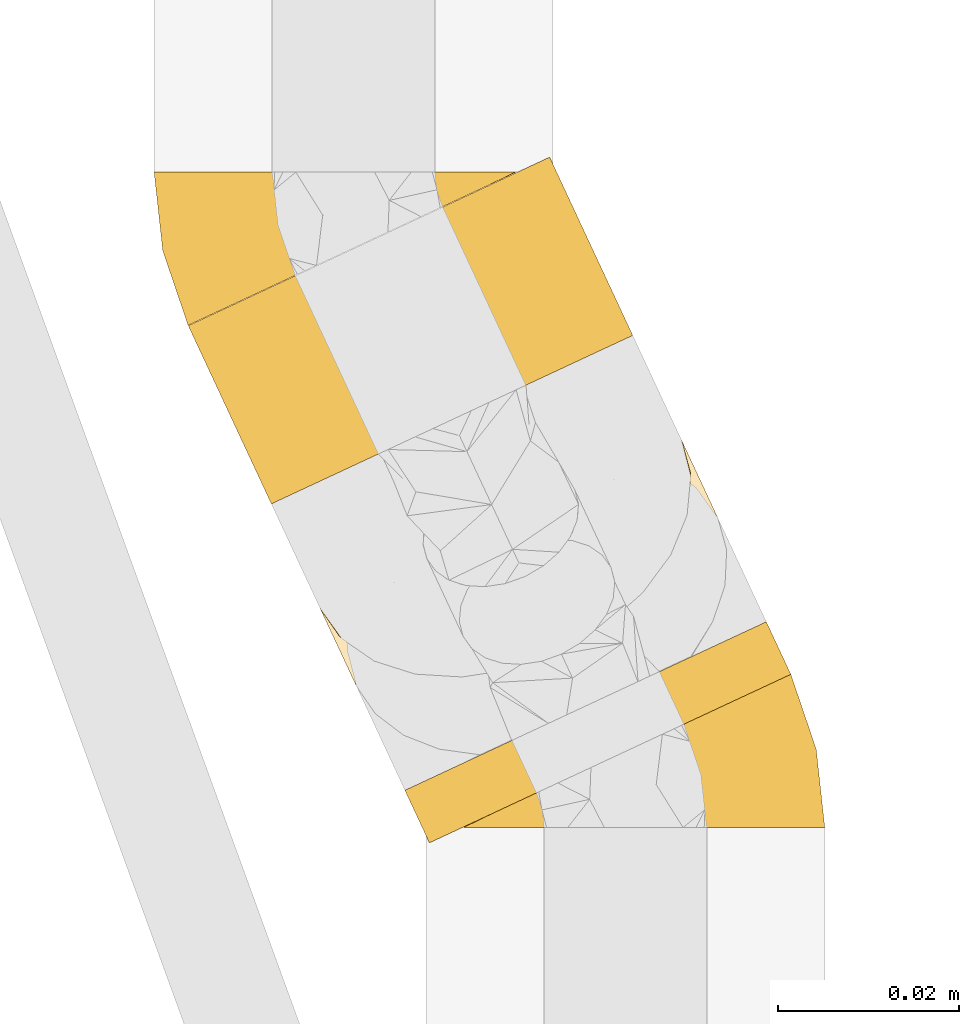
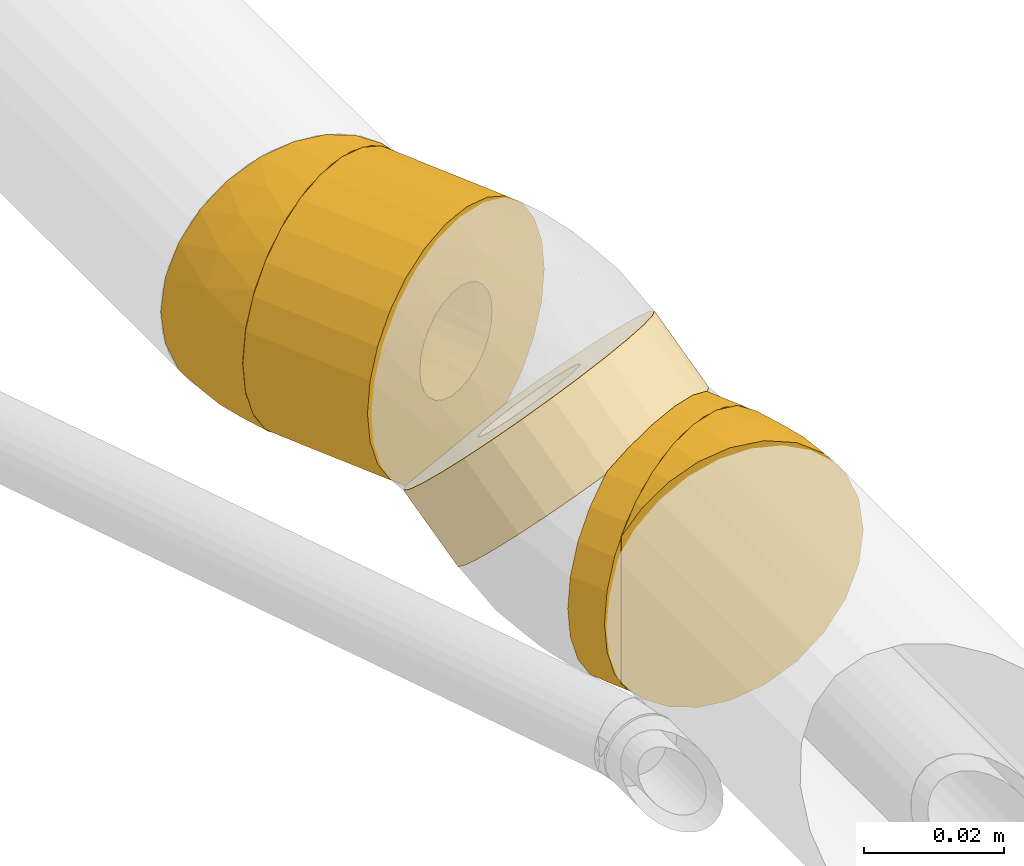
# One storey, part 10 of 156: 5 coverings.
"""IFC2X3 building model written with IfcOpenShell, lengths in millimetres."""

from ifc_helpers import new_model, entity, si_unit, converted_unit, derived_unit, direction, frame, origin_with_axes, origin_2d_with_axis, place, context, subcontext, project, spatial, hollow_circle, extrude, open_shell, surface_model, source, transform, mapped, element, save


model = new_model("IFC2X3")

# Units and contexts
model_context = context("Model", 3, precision=0.01, world=frame((0.0, 4.29681676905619e-09, 0.0)), true_north=direction((4.01073788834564e-13, 1.0)))
plan_context = context("Plan", 3, precision=0.01, world=frame((0.0, 4.29681676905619e-09, 0.0)), true_north=direction((4.01073788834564e-13, 1.0)))
body_context = subcontext(model_context, "Body", "Model", "MODEL_VIEW")
ifc_project = project(units=[converted_unit("PLANEANGLEUNIT", "DEGREE", entity("IfcPositiveLengthMeasure", 0.0174532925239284), si_unit("PLANEANGLEUNIT", "RADIAN"), dimensions=[0, 0, 0, 0, 0, 0, 0]), si_unit("AREAUNIT", "SQUARE_METRE"), si_unit("LENGTHUNIT", "METRE", prefix="MILLI"), si_unit("MASSUNIT", "GRAM", prefix="KILO"), si_unit("POWERUNIT", "WATT"), si_unit("PRESSUREUNIT", "PASCAL", prefix="KILO"), si_unit("FORCEUNIT", "NEWTON", prefix="KILO"), si_unit("ELECTRICVOLTAGEUNIT", "VOLT"), si_unit("ELECTRICCURRENTUNIT", "AMPERE"), si_unit("THERMODYNAMICTEMPERATUREUNIT", "DEGREE_CELSIUS"), si_unit("TIMEUNIT", "SECOND"), si_unit("VOLUMEUNIT", "CUBIC_METRE"), derived_unit("LINEARVELOCITYUNIT", [(si_unit("LENGTHUNIT", "METRE"), 1), (si_unit("TIMEUNIT", "SECOND"), -1)]), derived_unit("VOLUMETRICFLOWRATEUNIT", [(si_unit("VOLUMEUNIT", "CUBIC_METRE"), 1), (si_unit("TIMEUNIT", "SECOND"), -1)]), derived_unit("THERMALTRANSMITTANCEUNIT", [(si_unit("POWERUNIT", "WATT"), 1), (si_unit("THERMODYNAMICTEMPERATUREUNIT", "KELVIN"), -1), (si_unit("AREAUNIT", "SQUARE_METRE"), -1)]), derived_unit("SOUNDPRESSUREUNIT", [(si_unit("PRESSUREUNIT", "PASCAL"), 1)])], contexts=[model_context, plan_context])

# Site, building, storey
site_placement = place(None, frame((0.0, -4.29681676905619e-09, 0.0), z_axis=(0.0, 0.0, 1.0), x_axis=(1.0, 0.0, 0.0)))
site = spatial("IfcSite", under=ifc_project, at=site_placement, CompositionType="ELEMENT")
building_placement = place(site_placement, frame((0.0, 4.29681676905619e-09, 0.0), z_axis=(0.0, 0.0, 1.0), x_axis=(1.0, 0.0, 0.0)))
building = spatial("IfcBuilding", under=site, at=building_placement, Name="mc-building", CompositionType="ELEMENT")
storey_placement = place(building_placement, frame((0.0, 0.0, 205200.0), z_axis=(0.0, 0.0, 1.0), x_axis=(1.0, 0.0, 0.0)))
storey = spatial("IfcBuildingStorey", under=building, at=storey_placement, Name="Nivå D + 1,2 m", CompositionType="ELEMENT", Elevation=205200.0)

# Coverings
shared_shape_1 = source(origin_with_axes(), body_context, "Body", "SweptSolid", [
    extrude(hollow_circle(Radius=22.0, WallThickness=13.0, at=origin_2d_with_axis()), frame((0.0, 0.0, 0.0), z_axis=(1.0, 0.0, 0.0), x_axis=(0.0, 1.0, 0.0)), (0.0, 0.0, 1.0), 21.7),
])
covering_1_placement = place(storey_placement, frame((323604.74754, 466527.8438, 4210.50902999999), z_axis=(0.0, 0.0, 1.0), x_axis=(-0.422617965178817, 0.906307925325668, 0.0)))
element("IfcCovering", 1, at=covering_1_placement, inside=storey, Name="BI15T - Cellegummi KV 15mm", PredefinedType="INSULATION", context=body_context, shape_type="MappedRepresentation", body=[
    mapped(shared_shape_1, transform((0.0, 0.0, 0.0), scale=1.0)),
])
shared_shape_2 = source(origin_with_axes(), body_context, "Body", "SweptSolid", [
    extrude(hollow_circle(Radius=22.0, WallThickness=13.0, at=origin_2d_with_axis()), frame((0.0, 0.0, 0.0), z_axis=(1.0, 0.0, 0.0), x_axis=(0.0, 1.0, 0.0)), (0.0, 0.0, 1.0), 6.4),
])
covering_2_placement = place(storey_placement, frame((323622.18721, 466490.44431, 4190.50902999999), z_axis=(0.0, 0.0, 1.0), x_axis=(-0.422617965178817, 0.906307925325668, 0.0)))
element("IfcCovering", 2, at=covering_2_placement, inside=storey, Name="BI15T - Cellegummi KV 15mm", PredefinedType="INSULATION", context=body_context, shape_type="MappedRepresentation", body=[
    mapped(shared_shape_2, transform((0.0, 0.0, 0.0), scale=1.0)),
])
shared_shape_3 = source(origin_with_axes(), body_context, "Body", "SweptSolid", [
    extrude(hollow_circle(Radius=22.0, WallThickness=13.0, at=origin_2d_with_axis()), frame((0.0, 0.0, 0.0), z_axis=(1.0, 0.0, 0.0), x_axis=(0.0, 1.0, 0.0)), (0.0, 0.0, 1.0), 13.4),
])
covering_3_placement = place(storey_placement, frame((323614.1228, 466507.73848, 4195.78111000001), z_axis=(0.298836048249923, -0.640856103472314, 0.70710711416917), x_axis=(-0.298836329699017, 0.640856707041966, 0.707106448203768)))
element("IfcCovering", 3, at=covering_3_placement, inside=storey, Name="BI15T - Cellegummi KV 15mm", PredefinedType="INSULATION", context=body_context, shape_type="MappedRepresentation", body=[
    mapped(shared_shape_3, transform((0.0, 0.0, 0.0), scale=1.0)),
])
shared_shape_4 = source(origin_with_axes(), body_context, "Body", "SurfaceModel", [
    surface_model("IfcShellBasedSurfaceModel", [(-3.9905, 17.87261, -12.82848), (-3.9905, 14.36004, -16.66701), (-3.9905, 10.04424, -19.57328), (-3.9905, 5.16662, -21.38472), (-3.9905, 0.0, -22.0), (-3.9905, 14.36004, 16.66701), (-3.9905, 17.87261, 12.82848), (-3.9905, 5.16662, 21.38472), (-3.9905, 10.04424, 19.57328), (-3.9905, 0.0, 22.0), (-3.9905, -5.69402, 21.25037), (-3.9905, -21.25037, -5.69402), (-3.9905, -5.69402, -21.25037), (-3.9905, -11.0, -19.05256), (-3.9905, -15.55635, -15.55635), (-3.9905, -19.05256, -11.0), (-3.9905, -21.25037, 5.69402), (-3.9905, -11.0, 19.05256), (-3.9905, -15.55635, 15.55635), (-3.9905, -19.05256, 11.0), (-3.9905, -22.0, 0.0), (-0.62825, 10.78963, -19.57328), (-2.45219, 14.70108, -16.66701), (-3.93667, 17.88455, -12.82848), (-2.45219, 14.70108, 16.66701), (1.43312, 6.36901, -21.38472), (12.59742, -17.57291, 5.69402), (-3.93667, 17.88455, 12.82848), (-0.62825, 10.78963, 19.57328), (1.43312, 6.36901, 21.38472), (6.02302, -3.47407, 21.25037), (3.61662, 1.68646, 22.0), (3.61662, 1.68646, -22.0), (12.59742, -17.57291, -5.69402), (8.26543, -8.28293, -19.05256), (6.02302, -3.47407, -21.25037), (11.66858, -15.58102, -11.0), (10.19102, -12.41238, -15.55635), (10.19102, -12.41238, 15.55635), (8.26543, -8.28293, 19.05256), (11.66858, -15.58102, 11.0), (12.91423, -18.25231, 0.0), (-0.09459, 0.42667, -22.0), (0.16749, -3.90077, -21.57728), (2.80413, -12.64862, -17.45377), (3.6831, -16.61338, -13.39275), (1.72762, -7.7928, -20.32535), (4.30462, -19.41689, -8.41903), (5.75157, -20.35952, -4.29199), (4.66708, -21.05184, 0.0), (1.49674, -3.60608, 21.57728), (1.72762, -7.7928, 20.32535), (3.39161, -20.88271, 4.29199), (3.6831, -16.61338, 13.39275), (4.30462, -19.41689, 8.41903), (2.80413, -12.64862, 17.45377), (-0.09459, 0.42667, 22.0), (-3.44242, 16.74262, 14.19611)], [open_shell([[[0, 1, 2]], [[3, 4, 0]], [[3, 0, 2]], [[0, 4, 5]], [[6, 0, 5]], [[5, 7, 8]], [[9, 7, 10]], [[7, 5, 10]], [[5, 4, 11]], [[12, 13, 11]], [[14, 15, 11]], [[14, 11, 13]], [[16, 5, 11]], [[17, 16, 18]], [[17, 10, 5]], [[18, 16, 19]], [[16, 17, 5]], [[11, 20, 16]], [[11, 4, 12]], [[21, 22, 23]], [[24, 25, 23]], [[21, 23, 25]], [[24, 26, 25]], [[24, 23, 27]], [[28, 29, 24]], [[30, 29, 31]], [[30, 24, 29]], [[26, 32, 25]], [[33, 34, 35]], [[33, 36, 37]], [[34, 33, 37]], [[33, 32, 26]], [[38, 26, 39]], [[24, 30, 39]], [[40, 26, 38]], [[24, 39, 26]], [[26, 41, 33]], [[35, 32, 33]], [[21, 3, 2]], [[4, 3, 42]], [[25, 42, 3]], [[2, 1, 22]], [[22, 21, 2]], [[32, 42, 25]], [[3, 21, 25]], [[23, 22, 1]], [[4, 43, 12]], [[44, 14, 13]], [[37, 36, 45]], [[45, 14, 44]], [[13, 12, 46]], [[36, 33, 47]], [[11, 48, 20]], [[43, 46, 12]], [[48, 11, 47]], [[47, 15, 45]], [[46, 44, 13]], [[43, 42, 32]], [[4, 42, 43]], [[45, 44, 37]], [[34, 44, 46]], [[41, 48, 33]], [[35, 43, 32]], [[48, 49, 20]], [[48, 47, 33]], [[34, 37, 44]], [[15, 14, 45]], [[48, 41, 49]], [[47, 45, 36]], [[35, 34, 46]], [[15, 47, 11]], [[35, 46, 43]], [[50, 51, 30]], [[20, 49, 52]], [[19, 53, 18]], [[54, 19, 16]], [[31, 50, 30]], [[40, 38, 53]], [[55, 51, 17]], [[50, 56, 9]], [[53, 55, 18]], [[26, 40, 54]], [[51, 55, 39]], [[10, 50, 9]], [[52, 26, 54]], [[17, 18, 55]], [[54, 53, 19]], [[52, 54, 16]], [[53, 54, 40]], [[53, 38, 55]], [[39, 30, 51]], [[50, 10, 51]], [[17, 51, 10]], [[31, 56, 50]], [[52, 49, 41]], [[38, 39, 55]], [[20, 52, 16]], [[52, 41, 26]], [[8, 7, 29]], [[28, 5, 8]], [[6, 5, 57]], [[9, 56, 7]], [[56, 31, 29]], [[24, 5, 28]], [[8, 29, 28]], [[7, 56, 29]], [[5, 24, 57]]])]),
])
for number, where, z_axis, x_axis in (
    (4, (323623.87367, 466486.82768, 4190.50902999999), (0.0, 0.0, 1.0), (0.0, 1.0, 0.0)),
    (5, (323593.87367, 466551.16289, 4210.50902999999), (0.0, 0.0, 1.0), (0.0, -1.0, 0.0)),
):
    element("IfcCovering", number, at=place(storey_placement, frame(where, z_axis=z_axis, x_axis=x_axis)), inside=storey, Name="BI15T - Cellegummi KV 15mm", PredefinedType="INSULATION", context=body_context, shape_type="MappedRepresentation", body=[
        mapped(shared_shape_4, transform((0.0, 0.0, 0.0), scale=1.0)),
    ])

save(model, "model.ifc")
